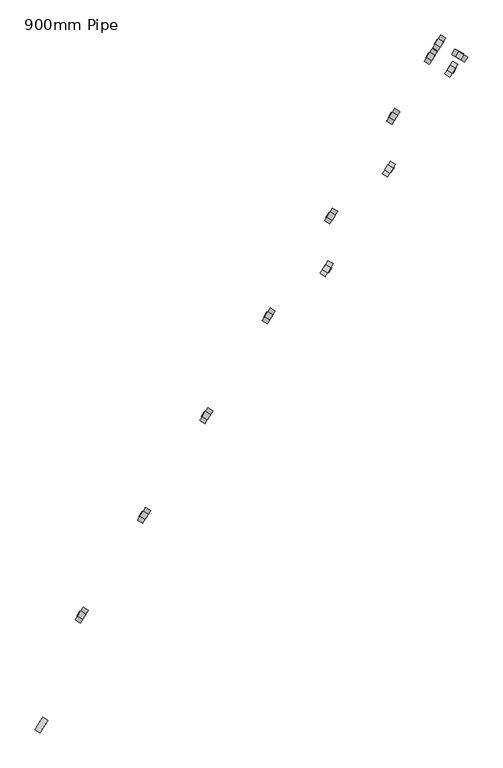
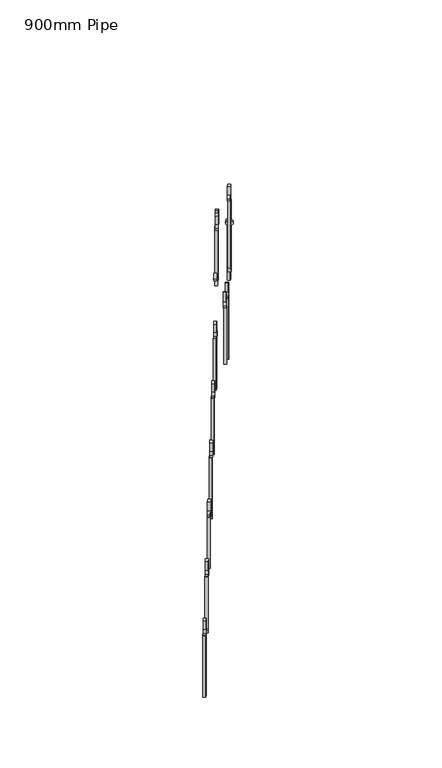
"""IFC4 building model written with IfcOpenShell, lengths in millimetres: railing geometry, 900mm Pipe."""

from ifc_helpers import new_model, si_unit, point, frame, frame_2d, origin, place, context, project, spatial, polyline, circle_curve, trimmed, segment, composite_curve, outline, extrude, source, transform, mapped, element, save


def railing_900mm_pipe_58324353(model_context):
    return source(origin(), model_context, "Body", "SweptSolid", [
        extrude(outline(composite_curve([segment(trimmed(circle_curve(frame_2d((0.0, -31.75)), 31.75), [point((0.0, -63.5))], [point((0.0, 0.0))], False, "CARTESIAN"), True, "CONTINUOUS"), segment(trimmed(circle_curve(frame_2d((0.0, -31.75)), 31.75), [point((0.0, 0.0))], [point((0.0, -63.5))], False, "CARTESIAN"), True, "CONTINUOUS")], self_intersect=False), holes=[composite_curve([segment(trimmed(circle_curve(frame_2d((0.0, -31.75)), 12.7), [point((0.0, -44.45))], [point((0.0, -19.05))], True, "CARTESIAN"), True, "CONTINUOUS"), segment(trimmed(circle_curve(frame_2d((0.0, -31.75)), 12.7), [point((0.0, -19.05))], [point((0.0, -44.45))], True, "CARTESIAN"), True, "CONTINUOUS")], self_intersect=False)]), frame((47195.2119075, -51385.7704072, 2999.35), z_axis=(-0.8480480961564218, 0.5299192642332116, 0.0), x_axis=(0.0, 0.0, 1.0)), (0.0, 0.0, 1.0), 25.4),
        extrude(outline(polyline([(47167.9515703, -51387.4557151), (47189.4919919, -51400.9156644), (47176.0320426, -51422.4560861), (47154.491621, -51408.9961368), (47167.9515703, -51387.4557151)])), frame((0.0, 0.0, 2400.0), z_axis=(0.0, 0.0, 1.0), x_axis=(1.0, 0.0, 0.0)), (0.0, 0.0, 1.0), 567.6),
        extrude(outline(polyline([(317.5, 0.0), (317.5, -25.4), (234.95, -25.4), (222.25, 0.0), (317.5, 0.0)])), frame((47171.6569962, -51423.4661451, 3348.6), z_axis=(-0.8480480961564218, 0.5299192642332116, 0.0), x_axis=(0.0, 0.0, -1.0)), (0.0, 0.0, 1.0), 25.4),
        extrude(outline(composite_curve([segment(trimmed(circle_curve(frame_2d((0.0, -31.75)), 31.75), [point((0.0, -63.5))], [point((0.0, 0.0))], False, "CARTESIAN"), True, "CONTINUOUS"), segment(trimmed(circle_curve(frame_2d((0.0, -31.75)), 31.75), [point((0.0, 0.0))], [point((0.0, -63.5))], False, "CARTESIAN"), True, "CONTINUOUS")], self_intersect=False), holes=[composite_curve([segment(trimmed(circle_curve(frame_2d((0.0, -31.75)), 12.7), [point((0.0, -44.4499999))], [point((0.0, -19.05))], True, "CARTESIAN"), True, "CONTINUOUS"), segment(trimmed(circle_curve(frame_2d((0.0, -31.75)), 12.7), [point((0.0, -19.05))], [point((0.0, -44.4499999))], True, "CARTESIAN"), True, "CONTINUOUS")], self_intersect=False)]), frame((47460.1715397, -50961.7463592, 2749.35), z_axis=(-0.8480480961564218, 0.5299192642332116, 0.0), x_axis=(0.0, 0.0, 1.0)), (0.0, 0.0, 1.0), 25.4),
        extrude(outline(polyline([(47432.9112024, -50963.431667), (47454.451624, -50976.8916164), (47440.9916747, -50998.432038), (47419.4512531, -50984.9720887), (47432.9112024, -50963.431667)])), frame((0.0, 0.0, 2100.0), z_axis=(0.0, 0.0, 1.0), x_axis=(1.0, 0.0, 0.0)), (0.0, 0.0, 1.0), 617.6),
        extrude(outline(polyline([(317.5, 0.0), (317.5, -25.4), (234.95, -25.4), (222.25, 0.0), (317.5, 0.0)])), frame((47436.6166284, -50999.442097, 3098.6), z_axis=(-0.8480480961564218, 0.5299192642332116, 0.0), x_axis=(0.0, 0.0, -1.0)), (0.0, 0.0, 1.0), 25.4),
        extrude(outline(composite_curve([segment(trimmed(circle_curve(frame_2d((0.0, -31.75)), 31.75), [point((0.0, -63.5))], [point((0.0, 0.0))], False, "CARTESIAN"), True, "CONTINUOUS"), segment(trimmed(circle_curve(frame_2d((0.0, -31.75)), 31.75), [point((0.0, 0.0))], [point((0.0, -63.5))], False, "CARTESIAN"), True, "CONTINUOUS")], self_intersect=False), holes=[composite_curve([segment(trimmed(circle_curve(frame_2d((0.0, -31.75)), 12.7), [point((0.0, -44.4499999))], [point((0.0, -19.05))], True, "CARTESIAN"), True, "CONTINUOUS"), segment(trimmed(circle_curve(frame_2d((0.0, -31.75)), 12.7), [point((0.0, -19.05))], [point((0.0, -44.4499999))], True, "CARTESIAN"), True, "CONTINUOUS")], self_intersect=False)]), frame((47445.6493685, -50791.7140474, 2199.35), z_axis=(-0.8480480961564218, 0.5299192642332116, 0.0), x_axis=(0.0, 0.0, -1.0)), (0.0, 0.0, 1.0), 25.4),
        extrude(outline(polyline([(47451.3692841, -50776.5687902), (47429.8288625, -50763.1088409), (47443.2888118, -50741.5684193), (47464.8292334, -50755.0283686), (47451.3692841, -50776.5687902)])), frame((0.0, 0.0, 1650.0), z_axis=(0.0, 0.0, 1.0), x_axis=(1.0, 0.0, 0.0)), (0.0, 0.0, 1.0), 517.6),
        extrude(outline(polyline([(317.5, 0.0), (317.5, -25.4), (222.25, -25.4), (234.95, 0.0), (317.5, 0.0)])), frame((47455.7443305, -50775.5587312, 2548.6), z_axis=(-0.8480480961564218, 0.5299192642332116, 0.0), x_axis=(0.0, 0.0, -1.0)), (0.0, 0.0, 1.0), 25.4),
        extrude(outline(composite_curve([segment(trimmed(circle_curve(frame_2d((0.0, -31.7499999)), 31.75), [point((0.0, -63.5))], [point((0.0, 0.0))], False, "CARTESIAN"), True, "CONTINUOUS"), segment(trimmed(circle_curve(frame_2d((0.0, -31.7499999)), 31.75), [point((0.0, 0.0))], [point((0.0, -63.5))], False, "CARTESIAN"), True, "CONTINUOUS")], self_intersect=False), holes=[composite_curve([segment(trimmed(circle_curve(frame_2d((0.0, -31.7499999)), 12.7), [point((0.0, -44.45))], [point((0.0, -19.05))], True, "CARTESIAN"), True, "CONTINUOUS"), segment(trimmed(circle_curve(frame_2d((0.0, -31.7499999)), 12.7), [point((0.0, -19.05))], [point((0.0, -44.45))], True, "CARTESIAN"), True, "CONTINUOUS")], self_intersect=False)]), frame((47180.6897364, -51215.7380955, 1949.35), z_axis=(-0.8480480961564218, 0.5299192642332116, 0.0), x_axis=(0.0, 0.0, -1.0)), (0.0, 0.0, 1.0), 25.4),
        extrude(outline(polyline([(47186.409652, -51200.5928383), (47164.8692304, -51187.132889), (47178.3291797, -51165.5924674), (47199.8696013, -51179.0524167), (47186.409652, -51200.5928383)])), frame((0.0, 0.0, 1350.0), z_axis=(0.0, 0.0, 1.0), x_axis=(1.0, 0.0, 0.0)), (0.0, 0.0, 1.0), 567.6),
        extrude(outline(polyline([(317.5, 0.0), (317.5, -25.4), (222.25, -25.4), (234.95, 0.0), (317.5, 0.0)])), frame((47190.7846984, -51199.5827793, 2298.6), z_axis=(-0.8480480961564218, 0.5299192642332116, 0.0), x_axis=(0.0, 0.0, -1.0)), (0.0, 0.0, 1.0), 25.4),
        extrude(outline(composite_curve([segment(trimmed(circle_curve(frame_2d((0.0, -31.75)), 31.75), [point((0.0, -63.5))], [point((0.0, 0.0))], False, "CARTESIAN"), True, "CONTINUOUS"), segment(trimmed(circle_curve(frame_2d((0.0, -31.75)), 31.75), [point((0.0, 0.0))], [point((0.0, -63.5))], False, "CARTESIAN"), True, "CONTINUOUS")], self_intersect=False), holes=[composite_curve([segment(trimmed(circle_curve(frame_2d((0.0, -31.75)), 12.7), [point((0.0, -44.45))], [point((0.0, -19.05))], True, "CARTESIAN"), True, "CONTINUOUS"), segment(trimmed(circle_curve(frame_2d((0.0, -31.75)), 12.7), [point((0.0, -19.05))], [point((0.0, -44.45))], True, "CARTESIAN"), True, "CONTINUOUS")], self_intersect=False)]), frame((46915.7301043, -51639.7621436, 1699.35), z_axis=(-0.8480480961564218, 0.5299192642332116, 0.0), x_axis=(0.0, 0.0, -1.0)), (0.0, 0.0, 1.0), 25.4),
        extrude(outline(polyline([(46921.4500199, -51624.6168864), (46899.9095983, -51611.1569371), (46913.3695476, -51589.6165154), (46934.9099692, -51603.0764648), (46921.4500199, -51624.6168864)])), frame((0.0, 0.0, 1050.0), z_axis=(0.0, 0.0, 1.0), x_axis=(1.0, 0.0, 0.0)), (0.0, 0.0, 1.0), 617.6),
        extrude(outline(polyline([(317.5, 0.0), (317.5, -25.4), (222.25, -25.4), (234.95, 0.0), (317.5, 0.0)])), frame((46925.8250663, -51623.6068274, 2048.6), z_axis=(-0.8480480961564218, 0.5299192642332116, 0.0), x_axis=(0.0, 0.0, -1.0)), (0.0, 0.0, 1.0), 25.4),
        extrude(outline(composite_curve([segment(trimmed(circle_curve(frame_2d((0.0, -31.75)), 31.75), [point((0.0, -63.5))], [point((0.0, 0.0))], False, "CARTESIAN"), True, "CONTINUOUS"), segment(trimmed(circle_curve(frame_2d((0.0, -31.75)), 31.75), [point((0.0, 0.0))], [point((0.0, -63.5))], False, "CARTESIAN"), True, "CONTINUOUS")], self_intersect=False), holes=[composite_curve([segment(trimmed(circle_curve(frame_2d((0.0, -31.75)), 12.7), [point((0.0, -44.45))], [point((0.0, -19.0500001))], True, "CARTESIAN"), True, "CONTINUOUS"), segment(trimmed(circle_curve(frame_2d((0.0, -31.75)), 12.7), [point((0.0, -19.0500001))], [point((0.0, -44.45))], True, "CARTESIAN"), True, "CONTINUOUS")], self_intersect=False)]), frame((46650.7704722, -52063.7861917, 1449.35), z_axis=(-0.8480480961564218, 0.5299192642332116, 0.0), x_axis=(0.0, 0.0, -1.0)), (0.0, 0.0, 1.0), 25.4),
        extrude(outline(polyline([(46656.4903878, -52048.6409345), (46634.9499661, -52035.1809852), (46648.4099155, -52013.6405635), (46669.9503371, -52027.1005128), (46656.4903878, -52048.6409345)])), frame((0.0, 0.0, 900.0), z_axis=(0.0, 0.0, 1.0), x_axis=(1.0, 0.0, 0.0)), (0.0, 0.0, 1.0), 517.6),
        extrude(outline(polyline([(317.5, 0.0), (317.5, -25.4), (222.25, -25.4), (234.95, 0.0), (317.5, 0.0)])), frame((46660.8654342, -52047.6308754, 1798.6), z_axis=(-0.8480480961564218, 0.5299192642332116, 0.0), x_axis=(0.0, 0.0, -1.0)), (0.0, 0.0, 1.0), 25.4),
        extrude(outline(composite_curve([segment(trimmed(circle_curve(frame_2d((0.0, -31.7499999)), 31.75), [point((0.0, -63.5))], [point((0.0, 0.0))], False, "CARTESIAN"), True, "CONTINUOUS"), segment(trimmed(circle_curve(frame_2d((0.0, -31.7499999)), 31.75), [point((0.0, 0.0))], [point((0.0, -63.5))], False, "CARTESIAN"), True, "CONTINUOUS")], self_intersect=False), holes=[composite_curve([segment(trimmed(circle_curve(frame_2d((0.0, -31.7499999)), 12.7), [point((0.0, -44.4499999))], [point((0.0, -19.0499999))], True, "CARTESIAN"), True, "CONTINUOUS"), segment(trimmed(circle_curve(frame_2d((0.0, -31.7499999)), 12.7), [point((0.0, -19.0499999))], [point((0.0, -44.4499999))], True, "CARTESIAN"), True, "CONTINUOUS")], self_intersect=False)]), frame((46385.8108401, -52487.8102397, 1199.35), z_axis=(-0.8480480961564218, 0.5299192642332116, 0.0), x_axis=(0.0, 0.0, -1.0)), (0.0, 0.0, 1.0), 25.4),
        extrude(outline(polyline([(46391.5307557, -52472.6649826), (46369.990334, -52459.2050332), (46383.4502833, -52437.6646116), (46404.990705, -52451.1245609), (46391.5307557, -52472.6649826)])), frame((0.0, 0.0, 600.0), z_axis=(0.0, 0.0, 1.0), x_axis=(1.0, 0.0, 0.0)), (0.0, 0.0, 1.0), 567.6),
        extrude(outline(polyline([(317.5, 0.0), (317.5, -25.4), (222.25, -25.4), (234.95, 0.0), (317.5, 0.0)])), frame((46395.905802, -52471.6549235, 1548.6), z_axis=(-0.8480480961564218, 0.5299192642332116, 0.0), x_axis=(0.0, 0.0, -1.0)), (0.0, 0.0, 1.0), 25.4),
        extrude(outline(composite_curve([segment(trimmed(circle_curve(frame_2d((0.0, -31.75)), 31.75), [point((0.0, -63.5))], [point((0.0, 0.0))], False, "CARTESIAN"), True, "CONTINUOUS"), segment(trimmed(circle_curve(frame_2d((0.0, -31.75)), 31.75), [point((0.0, 0.0))], [point((0.0, -63.5))], False, "CARTESIAN"), True, "CONTINUOUS")], self_intersect=False), holes=[composite_curve([segment(trimmed(circle_curve(frame_2d((0.0, -31.75)), 12.7), [point((0.0, -44.4499999))], [point((0.0, -19.05))], True, "CARTESIAN"), True, "CONTINUOUS"), segment(trimmed(circle_curve(frame_2d((0.0, -31.75)), 12.7), [point((0.0, -19.05))], [point((0.0, -44.4499999))], True, "CARTESIAN"), True, "CONTINUOUS")], self_intersect=False)]), frame((46120.8512079, -52911.8342878, 949.35), z_axis=(-0.8480480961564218, 0.5299192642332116, 0.0), x_axis=(0.0, 0.0, -1.0)), (0.0, 0.0, 1.0), 25.4),
        extrude(outline(polyline([(46126.5711235, -52896.6890306), (46105.0307019, -52883.2290813), (46118.4906512, -52861.6886597), (46140.0310729, -52875.148609), (46126.5711235, -52896.6890306)])), frame((0.0, 0.0, 300.0), z_axis=(0.0, 0.0, 1.0), x_axis=(1.0, 0.0, 0.0)), (0.0, 0.0, 1.0), 617.6),
        extrude(outline(polyline([(317.5, 0.0), (317.5, -25.4), (222.25, -25.4), (234.95, 0.0), (317.5, 0.0)])), frame((46130.9461699, -52895.6789716, 1298.6), z_axis=(-0.8480480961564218, 0.5299192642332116, 0.0), x_axis=(0.0, 0.0, -1.0)), (0.0, 0.0, 1.0), 25.4),
        extrude(outline(composite_curve([segment(trimmed(circle_curve(frame_2d((0.0, -31.75)), 31.75), [point((0.0, -63.5))], [point((0.0, 0.0))], False, "CARTESIAN"), True, "CONTINUOUS"), segment(trimmed(circle_curve(frame_2d((0.0, -31.75)), 31.75), [point((0.0, 0.0))], [point((0.0, -63.5))], False, "CARTESIAN"), True, "CONTINUOUS")], self_intersect=False), holes=[composite_curve([segment(trimmed(circle_curve(frame_2d((0.0, -31.75)), 12.7), [point((0.0, -44.45))], [point((0.0, -19.05))], True, "CARTESIAN"), True, "CONTINUOUS"), segment(trimmed(circle_curve(frame_2d((0.0, -31.75)), 12.7), [point((0.0, -19.05))], [point((0.0, -44.45))], True, "CARTESIAN"), True, "CONTINUOUS")], self_intersect=False)]), frame((47725.1311718, -50537.7223111, 3379.35), z_axis=(-0.8480480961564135, 0.5299192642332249, 0.0), x_axis=(0.0, 0.0, 1.0)), (0.0, 0.0, 1.0), 25.4),
        extrude(outline(polyline([(0.0, -25.4), (0.0, 0.0), (676.5249835, 0.0), (732.7250275, -25.4), (0.0, -25.4)])), frame((47705.9513068, -50574.4079899, 3347.6), z_axis=(-0.8480480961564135, 0.5299192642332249, 0.0), x_axis=(0.0, 0.0, -1.0)), (0.0, 0.0, 1.0), 25.4),
        extrude(outline(polyline([(47715.0362098, -50553.8776273), (47701.5762605, -50575.418049), (47680.0358388, -50561.9580996), (47693.4957881, -50540.417678), (47715.0362098, -50553.8776273)])), frame((0.0, 0.0, 3411.1), z_axis=(0.0, 0.0, 1.0), x_axis=(1.0, 0.0, 0.0)), (0.0, 0.0, 1.0), 88.9),
        extrude(outline(composite_curve([segment(trimmed(circle_curve(frame_2d((0.0, -31.75)), 31.75), [point((0.0, -63.5))], [point((0.0, 0.0))], False, "CARTESIAN"), True, "CONTINUOUS"), segment(trimmed(circle_curve(frame_2d((0.0, -31.75)), 31.75), [point((0.0, 0.0))], [point((0.0, -63.5))], False, "CARTESIAN"), True, "CONTINUOUS")], self_intersect=False), holes=[composite_curve([segment(trimmed(circle_curve(frame_2d((0.0, -31.75)), 12.7), [point((0.0, -44.45))], [point((0.0, -19.0500001))], True, "CARTESIAN"), True, "CONTINUOUS"), segment(trimmed(circle_curve(frame_2d((0.0, -31.75)), 12.7), [point((0.0, -19.0500001))], [point((0.0, -44.45))], True, "CARTESIAN"), True, "CONTINUOUS")], self_intersect=False)]), frame((47699.805626, -50494.3709542, 3079.35), z_axis=(0.529919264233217, 0.8480480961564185, 0.0), x_axis=(0.0, 0.0, -1.0)), (0.0, 0.0, 1.0), 25.4),
        extrude(outline(polyline([(47714.9508832, -50500.0908698), (47728.4108325, -50478.5504481), (47749.9512542, -50492.0103975), (47736.4913049, -50513.5508191), (47714.9508832, -50500.0908698)])), frame((0.0, 0.0, 2500.0), z_axis=(0.0, 0.0, 1.0), x_axis=(1.0, 0.0, 0.0)), (0.0, 0.0, 1.0), 547.6),
        extrude(outline(polyline([(47729.4208916, -50482.9254945), (47750.9613132, -50496.3854438), (47737.5013639, -50517.9258655), (47715.9609423, -50504.4659162), (47729.4208916, -50482.9254945)])), frame((0.0, 0.0, 3111.1), z_axis=(0.0, 0.0, 1.0), x_axis=(1.0, 0.0, 0.0)), (0.0, 0.0, 1.0), 88.9),
        extrude(outline(composite_curve([segment(trimmed(circle_curve(frame_2d((0.0, -31.7500001)), 31.75), [point((0.0, -63.5))], [point((0.0, 0.0))], False, "CARTESIAN"), True, "CONTINUOUS"), segment(trimmed(circle_curve(frame_2d((0.0, -31.7500001)), 31.75), [point((0.0, 0.0))], [point((0.0, -63.5))], False, "CARTESIAN"), True, "CONTINUOUS")], self_intersect=False), holes=[composite_curve([segment(trimmed(circle_curve(frame_2d((0.0, -31.7500001)), 12.7), [point((0.0, -44.45))], [point((0.0, -19.05))], True, "CARTESIAN"), True, "CONTINUOUS"), segment(trimmed(circle_curve(frame_2d((0.0, -31.7500001)), 12.7), [point((0.0, -19.05))], [point((0.0, -44.45))], True, "CARTESIAN"), True, "CONTINUOUS")], self_intersect=False)]), frame((47640.5502512, -50479.8074351, 3079.35), z_axis=(-0.848048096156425, 0.5299192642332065, 0.0), x_axis=(0.0, 0.0, -1.0)), (0.0, 0.0, 1.0), 25.4),
        extrude(outline(polyline([(47646.2701668, -50464.6621779), (47624.7297452, -50451.2022286), (47638.1896945, -50429.661807), (47659.7301162, -50443.1217563), (47646.2701668, -50464.6621779)])), frame((0.0, 0.0, 2500.0), z_axis=(0.0, 0.0, 1.0), x_axis=(1.0, 0.0, 0.0)), (0.0, 0.0, 1.0), 547.6),
        extrude(outline(polyline([(47629.1047916, -50450.1921696), (47642.5647409, -50428.6517479), (47664.1051625, -50442.1116972), (47650.6452132, -50463.6521189), (47629.1047916, -50450.1921696)])), frame((0.0, 0.0, 3111.1), z_axis=(0.0, 0.0, 1.0), x_axis=(1.0, 0.0, 0.0)), (0.0, 0.0, 1.0), 88.9),
        extrude(outline(composite_curve([segment(trimmed(circle_curve(frame_2d((0.0, -31.75)), 31.75), [point((0.0, -63.5))], [point((0.0, 0.0))], False, "CARTESIAN"), True, "CONTINUOUS"), segment(trimmed(circle_curve(frame_2d((0.0, -31.75)), 31.75), [point((0.0, 0.0))], [point((0.0, -63.5))], False, "CARTESIAN"), True, "CONTINUOUS")], self_intersect=False), holes=[composite_curve([segment(trimmed(circle_curve(frame_2d((0.0, -31.75)), 12.7), [point((0.0, -44.45))], [point((0.0, -19.05))], True, "CARTESIAN"), True, "CONTINUOUS"), segment(trimmed(circle_curve(frame_2d((0.0, -31.75)), 12.7), [point((0.0, -19.05))], [point((0.0, -44.45))], True, "CARTESIAN"), True, "CONTINUOUS")], self_intersect=False)]), frame((47604.6251478, -50537.2996186, 3079.35), z_axis=(-0.8480480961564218, 0.5299192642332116, 0.0), x_axis=(0.0, 0.0, -1.0)), (0.0, 0.0, 1.0), 25.4),
        extrude(outline(polyline([(0.0, -25.4), (0.0, 0.0), (555.5375, 0.0), (542.8375, -25.4), (0.0, -25.4)])), frame((47610.3450634, -50522.1543614, 3047.6), z_axis=(-0.8480480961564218, 0.5299192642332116, 0.0), x_axis=(0.0, 0.0, -1.0)), (0.0, 0.0, 1.0), 25.4),
        extrude(outline(polyline([(317.5, 0.0), (317.5, -25.4), (222.25, -25.4), (234.95, 0.0), (317.5, 0.0)])), frame((47614.7201098, -50521.1443024, 3428.6), z_axis=(-0.8480480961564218, 0.5299192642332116, 0.0), x_axis=(0.0, 0.0, -1.0)), (0.0, 0.0, 1.0), 25.4),
        extrude(outline(composite_curve([segment(trimmed(circle_curve(frame_2d((0.0, -31.7499999)), 31.75), [point((0.0, -63.5))], [point((0.0, 0.0))], False, "CARTESIAN"), True, "CONTINUOUS"), segment(trimmed(circle_curve(frame_2d((0.0, -31.7499999)), 31.75), [point((0.0, 0.0))], [point((0.0, -63.5))], False, "CARTESIAN"), True, "CONTINUOUS")], self_intersect=False), holes=[composite_curve([segment(trimmed(circle_curve(frame_2d((0.0, -31.7499999)), 12.7), [point((0.0, -44.45))], [point((0.0, -19.05))], True, "CARTESIAN"), True, "CONTINUOUS"), segment(trimmed(circle_curve(frame_2d((0.0, -31.7499999)), 12.7), [point((0.0, -19.05))], [point((0.0, -44.45))], True, "CARTESIAN"), True, "CONTINUOUS")], self_intersect=False)]), frame((45983.0215906, -53325.6804272, 4873.1), z_axis=(-0.8480480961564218, 0.5299192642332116, 0.0), x_axis=(0.0, 0.0, 1.0)), (0.0, 0.0, 1.0), 25.4),
    ])


if __name__ == "__main__":
    model = new_model("IFC4")
    model_context = context("Model", 3, world=origin())
    ifc_project = project(units=[si_unit("LENGTHUNIT", "METRE", prefix="MILLI")], contexts=[model_context])
    site = spatial("IfcSite", under=ifc_project)
    building = spatial("IfcBuilding", under=site)
    placement = place(None, origin())
    railing_900mm_pipe_shape = railing_900mm_pipe_58324353(model_context)
    element("IfcRailing", 1, ObjectType="900mm Pipe", at=placement, inside=building, context=model_context, shape_type="MappedRepresentation", body=[
        mapped(railing_900mm_pipe_shape, transform((0.0, 0.0, 0.0), x_axis=(1.0, 0.0, 0.0), y_axis=(0.0, 1.0, 0.0), z_axis=(0.0, 0.0, 1.0))),
    ])
    save(model, "model.ifc")
